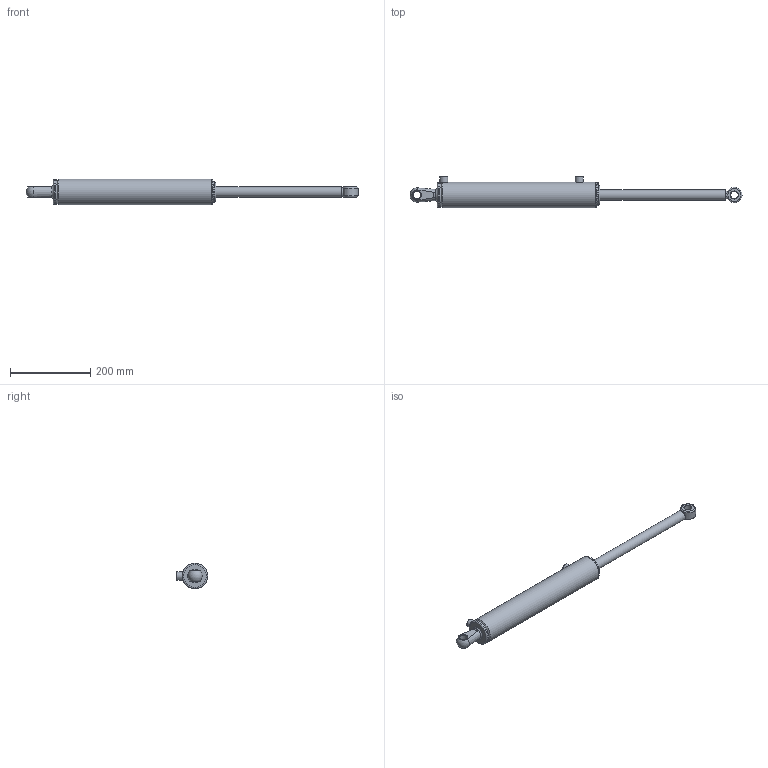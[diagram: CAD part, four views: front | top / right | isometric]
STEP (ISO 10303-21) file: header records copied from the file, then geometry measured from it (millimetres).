
FILE_DESCRIPTION(/* description */ ('Alibre Inc.'),/* implementation_level */ '2;1');
FILE_NAME(/* name */ 'export0',/* time_stamp */ '2016-08-16T09:51:28+12:00',/* author */ (''),/* organization */ (''),/* preprocessor_version */ 'ST-DEVELOPER v14',/* originating_system */ 'Alibre',/* authorisation */ '');
FILE_SCHEMA (('AUTOMOTIVE_DESIGN'));
Length unit declared in the file: centimetre
Bounding box: 828.94 x 78.5 x 63.5 mm (x, y, z)
Volume: 842566.9 mm3; surface area: 235049.8 mm2
Topology: 11 solids, 11 shells, 138 faces, 278 edges, 173 vertices
Faces by surface type: cylinder 51, plane 44, cone 27, torus 13, bspline 2, sphere 1
Full cylindrical faces by diameter (mm): 2.5 x2, 5.588 x1, 6.35 x2, 8.3 x2, 11.9 x2, 17.323 x2, 19.05 x2, 19.101 x1, 20 x2, 25.4 x1, 25.45 x2, 31.77 x1, 31.8 x1, 32.5 x1, 34.93 x2, 38.1 x1, 41.3 x2, 44.91 x1, 45.5 x1, 46.23 x2, 48 x2, 48.3 x1, 49.48 x2, 50.07 x1, 50.69 x2, 50.8 x2, 54 x1, 63.5 x3
Entity records: 3664 total; most frequent: CARTESIAN_POINT 968, DIRECTION 530, ORIENTED_EDGE 330, AXIS2_PLACEMENT_3D 283, FACE_BOUND 258, EDGE_LOOP 256, EDGE_CURVE 165, VERTEX_POINT 153
